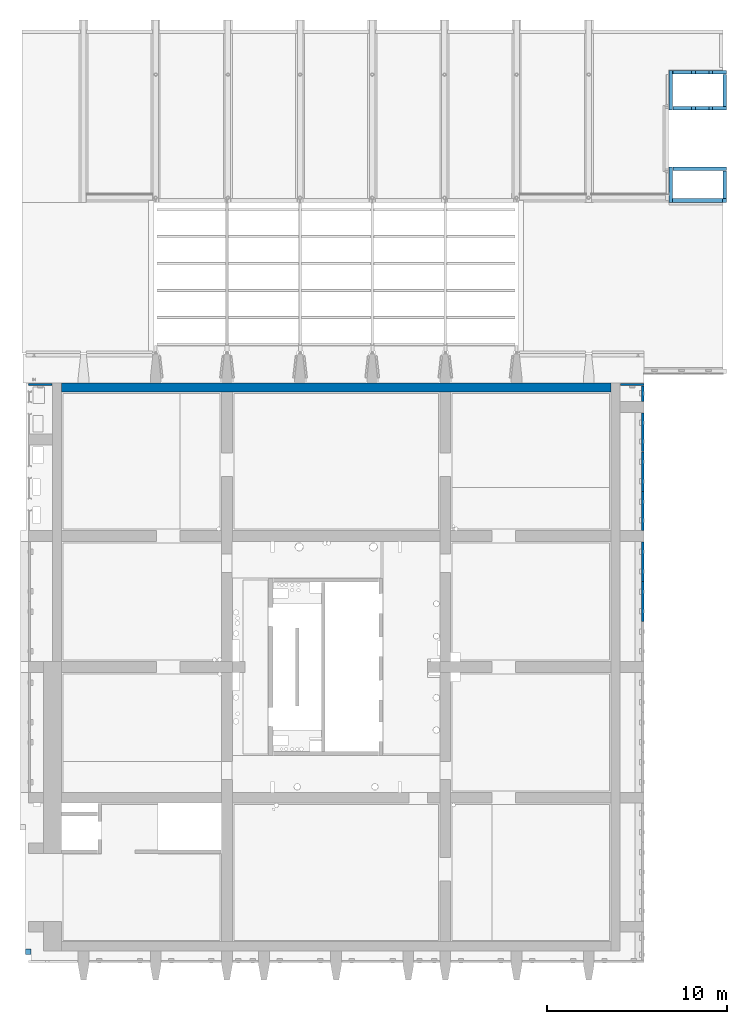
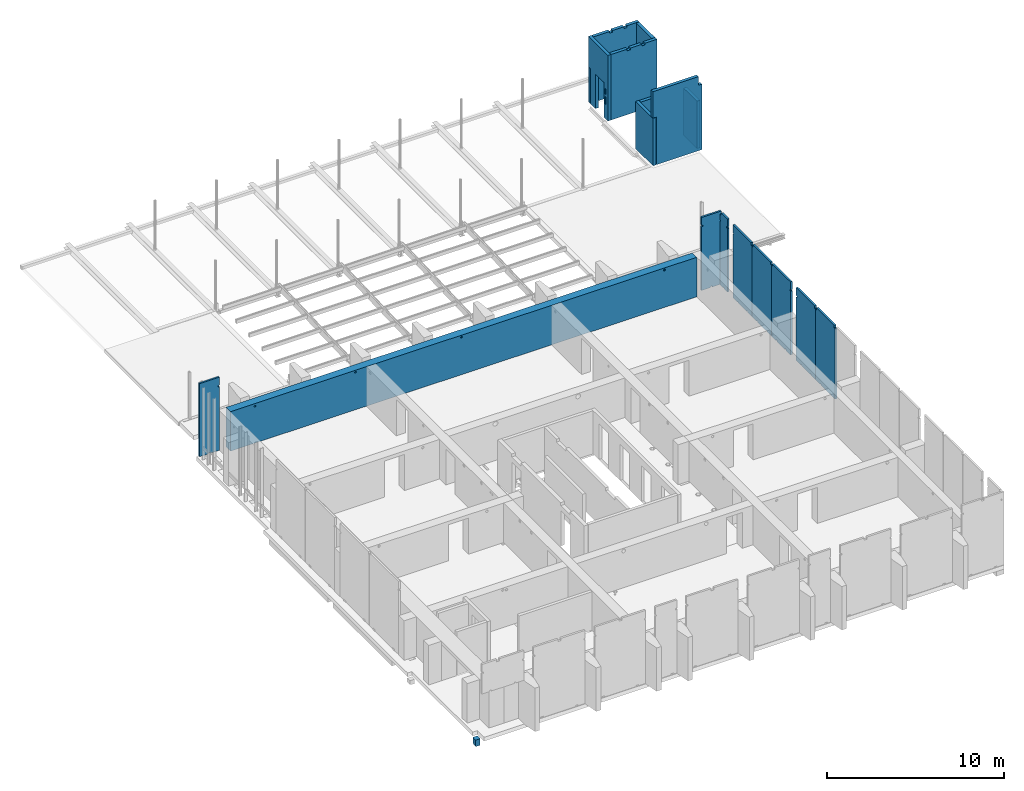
# One storey, part 29 of 31: 18 walls, 43 openings.
"""IFC2X3 building model written with IfcOpenShell, lengths in millimetres."""

from ifc_helpers import new_model, entity, si_unit, converted_unit, derived_unit, direction, frame, frame_2d, origin, origin_2d_with_axis, place, context, subcontext, project, spatial, rectangle, circle, extrude, faceted_brep, material, layer, layer_set, layer_usage, type_object, element, save


model = new_model("IFC2X3")

# Units and contexts
model_context = context("Model", 3, precision=0.01, world=origin(), true_north=direction((6.12303176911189e-17, 1.0)))
body_context = subcontext(model_context, "Body", "Model", "MODEL_VIEW")
ifc_project = project(units=[si_unit("LENGTHUNIT", "METRE", prefix="MILLI"), si_unit("AREAUNIT", "SQUARE_METRE"), si_unit("VOLUMEUNIT", "CUBIC_METRE"), converted_unit("PLANEANGLEUNIT", "DEGREE", entity("IfcRatioMeasure", 0.0174532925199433), si_unit("PLANEANGLEUNIT", "RADIAN"), dimensions=[0, 0, 0, 0, 0, 0, 0]), si_unit("MASSUNIT", "GRAM", prefix="KILO"), derived_unit("MASSDENSITYUNIT", [(si_unit("MASSUNIT", "GRAM", prefix="KILO"), 1), (si_unit("LENGTHUNIT", "METRE"), -3)]), si_unit("TIMEUNIT", "SECOND"), si_unit("FREQUENCYUNIT", "HERTZ"), si_unit("THERMODYNAMICTEMPERATUREUNIT", "DEGREE_CELSIUS"), derived_unit("THERMALTRANSMITTANCEUNIT", [(si_unit("MASSUNIT", "GRAM", prefix="KILO"), 1), (si_unit("THERMODYNAMICTEMPERATUREUNIT", "KELVIN"), -1), (si_unit("TIMEUNIT", "SECOND"), -3)]), derived_unit("VOLUMETRICFLOWRATEUNIT", [(si_unit("LENGTHUNIT", "METRE"), 3), (si_unit("TIMEUNIT", "SECOND"), -1)]), si_unit("ELECTRICCURRENTUNIT", "AMPERE"), si_unit("ELECTRICVOLTAGEUNIT", "VOLT"), si_unit("POWERUNIT", "WATT"), si_unit("FORCEUNIT", "NEWTON", prefix="KILO"), si_unit("ILLUMINANCEUNIT", "LUX"), si_unit("LUMINOUSFLUXUNIT", "LUMEN"), si_unit("LUMINOUSINTENSITYUNIT", "CANDELA"), derived_unit("USERDEFINED", [(si_unit("MASSUNIT", "GRAM", prefix="KILO"), -1), (si_unit("LENGTHUNIT", "METRE"), -2), (si_unit("TIMEUNIT", "SECOND"), 3), (si_unit("LUMINOUSFLUXUNIT", "LUMEN"), 1)]), derived_unit("LINEARVELOCITYUNIT", [(si_unit("LENGTHUNIT", "METRE"), 1), (si_unit("TIMEUNIT", "SECOND"), -1)]), si_unit("PRESSUREUNIT", "PASCAL"), derived_unit("USERDEFINED", [(si_unit("LENGTHUNIT", "METRE"), -2), (si_unit("MASSUNIT", "GRAM", prefix="KILO"), 1), (si_unit("TIMEUNIT", "SECOND"), -2)])], contexts=[model_context])

# Site, building, storey
site_placement = place(None, origin())
site = spatial("IfcSite", under=ifc_project, at=site_placement, Name="Default", CompositionType="ELEMENT")
building_placement = place(site_placement, origin())
building = spatial("IfcBuilding", under=site, at=building_placement, Name="niet gebruiken", CompositionType="ELEMENT")
storey_placement = place(building_placement, frame((0.0, 0.0, 12000.0)))
storey = spatial("IfcBuildingStorey", under=building, at=storey_placement, Name="03 derde verdieping", CompositionType="ELEMENT", Elevation=12000.0)

# Wall, openings
ifc_material_1 = material(Name="NLRS_f2_beton prefab")
ifc_layer_1 = layer(ifc_material_1, 200.0)
ifc_layer_set_1 = layer_set([ifc_layer_1], Name="Basic Wall:NLRS_21.21_WA_beton prefab d=200_gen")
ifc_layer_usage_1 = layer_usage(ifc_layer_set_1, "AXIS2", "NEGATIVE", 100.0)
wall_type_1 = type_object("IfcWallType", Name="Basic Wall:NLRS_21.21_WA_beton prefab d=200_gen", PredefinedType="STANDARD", material=ifc_layer_set_1)
wall_1_placement = place(storey_placement, frame((160290.0, 48350.0, 1450.0), z_axis=(0.0, 0.0, 1.0), x_axis=(0.0, 1.0, 0.0)))
wall_1 = element("IfcWallStandardCase", 1, at=wall_1_placement, inside=storey, type_object=wall_type_1, material=ifc_layer_usage_1, Name="Basic Wall:NLRS_21.21_WA_beton prefab d=200_gen", ObjectType="Basic Wall:NLRS_21.21_WA_beton prefab d=200_gen", context=body_context, shape_type="SweptSolid", body=[
    extrude(rectangle(XDim=2199.99999999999, YDim=200.000000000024, at=frame_2d((1099.99999999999, 0.0), x_axis=(-1.0, 0.0))), origin(), (0.0, 0.0, 1.0), 4530.0),
])
opening_1_placement = place(wall_1_placement, frame((418.0, 100.0, -20.0)))
element("IfcOpeningElement", 2, at=opening_1_placement, cuts=wall_1, Name="Basic Wall:NLRS_21.21_WA_beton prefab d=200_gen", ObjectType="Opening", context=body_context, shape_type="Brep", body=[
    faceted_brep([(992.0, -200.0, 2410.0), (12.0, -200.0, 2410.0), (12.0, -200.0, 0.0), (992.0, -200.0, 0.0), (1004.0, 0.0, 2422.0), (1004.0, 0.0, 0.0), (0.0, 0.0, 0.0), (0.0, 0.0, 2422.0)], [[[0, 1, 2, 3]], [[4, 5, 6, 7]], [[4, 7, 1, 0]], [[7, 6, 2, 1]], [[6, 5, 3, 2]], [[5, 4, 0, 3]]]),
])
opening_2_placement = place(wall_1_placement, origin())
element("IfcOpeningElement", 3, at=opening_2_placement, cuts=wall_1, Name="Basic Wall:NLRS_21.21_WA_beton prefab d=200_gen", ObjectType="Opening", context=body_context, shape_type="SweptSolid", body=[
    extrude(rectangle(XDim=2420.00000000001, YDim=220.000000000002, at=origin_2d_with_axis()), frame((2090.0, -100.0, 1210.0), z_axis=(0.0, 1.0, 0.0), x_axis=(0.0, 0.0, -1.0)), (0.0, 0.0, 1.0), 200.000000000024),
])
opening_3_placement = place(wall_1_placement, origin())
element("IfcOpeningElement", 4, at=opening_3_placement, cuts=wall_1, Name="Basic Wall:NLRS_21.21_WA_beton prefab d=200_gen", ObjectType="Opening", context=body_context, shape_type="SweptSolid", body=[
    extrude(rectangle(XDim=515.000000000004, YDim=100.000000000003, at=frame_2d((-8.66506866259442e-12, -1.08002495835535e-12), x_axis=(0.0, 1.0))), frame((250.0, -100.0, 1257.5), z_axis=(0.0, 1.0, 0.0), x_axis=(1.0, 0.0, 0.0)), (0.0, 0.0, 1.0), 200.000000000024),
])
opening_4_placement = place(wall_1_placement, origin())
element("IfcOpeningElement", 5, at=opening_4_placement, cuts=wall_1, Name="Basic Wall:NLRS_21.21_WA_beton prefab d=200_gen", ObjectType="Opening", context=body_context, shape_type="SweptSolid", body=[
    extrude(rectangle(XDim=370.000000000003, YDim=100.000000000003, at=frame_2d((-8.66506866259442e-12, 0.0), x_axis=(0.0, 1.0))), frame((250.0, -100.0, 1885.0), z_axis=(0.0, 1.0, 0.0), x_axis=(1.0, 0.0, 0.0)), (0.0, 0.0, 1.0), 200.000000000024),
])

# Wall
ifc_layer_usage_2 = layer_usage(ifc_layer_set_1, "AXIS2", "NEGATIVE", 100.0)
wall_2_placement = place(storey_placement, frame((163290.0, 43470.0, 1450.0), z_axis=(0.0, 0.0, 1.0), x_axis=(0.0, 1.0, 0.0)))
element("IfcWallStandardCase", 6, at=wall_2_placement, inside=storey, type_object=wall_type_1, material=ifc_layer_usage_2, Name="Basic Wall:NLRS_21.21_WA_beton prefab d=200_gen", ObjectType="Basic Wall:NLRS_21.21_WA_beton prefab d=200_gen", context=body_context, shape_type="SweptSolid", body=[
    extrude(rectangle(XDim=1510.0, YDim=200.000000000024, at=frame_2d((755.000000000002, 0.0), x_axis=(-1.0, 0.0))), origin(), (0.0, 0.0, 1.0), 3275.0),
])

# Wall, openings
ifc_layer_usage_3 = layer_usage(ifc_layer_set_1, "AXIS2", "NEGATIVE", 100.0)
wall_3_placement = place(storey_placement, frame((160410.0, 48450.0, 1450.0)))
wall_3 = element("IfcWallStandardCase", 7, at=wall_3_placement, inside=storey, type_object=wall_type_1, material=ifc_layer_usage_3, Name="Basic Wall:NLRS_21.21_WA_beton prefab d=200_gen", ObjectType="Basic Wall:NLRS_21.21_WA_beton prefab d=200_gen", context=body_context, shape_type="SweptSolid", body=[
    extrude(rectangle(XDim=2980.00000000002, YDim=200.000000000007, at=frame_2d((1490.00000000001, 9.2370555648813e-14), x_axis=(-1.0, 0.0))), origin(), (0.0, 0.0, 1.0), 4530.0),
])
opening_5_placement = place(wall_3_placement, origin())
element("IfcOpeningElement", 8, at=opening_5_placement, cuts=wall_3, Name="Basic Wall:NLRS_21.21_WA_beton prefab d=200_gen", ObjectType="Opening", context=body_context, shape_type="SweptSolid", body=[
    extrude(rectangle(XDim=140.000000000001, YDim=199.999999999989, at=frame_2d((1.08002495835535e-12, 1.73301373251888e-11), x_axis=(1.0, 0.0))), frame((1146.0, -100.0, 4480.0), z_axis=(0.0, 1.0, 0.0), x_axis=(0.0, 0.0, -1.0)), (0.0, 0.0, 1.0), 200.000000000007),
])
opening_6_placement = place(wall_3_placement, origin())
element("IfcOpeningElement", 9, at=opening_6_placement, cuts=wall_3, Name="Basic Wall:NLRS_21.21_WA_beton prefab d=200_gen", ObjectType="Opening", context=body_context, shape_type="SweptSolid", body=[
    extrude(rectangle(XDim=140.000000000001, YDim=199.999999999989, at=frame_2d((1.08002495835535e-12, -1.73301373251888e-11), x_axis=(1.0, 0.0))), frame((2096.0, -100.0, 4480.0), z_axis=(0.0, 1.0, 0.0), x_axis=(0.0, 0.0, -1.0)), (0.0, 0.0, 1.0), 200.000000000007),
])

ifc_layer_usage_4 = layer_usage(ifc_layer_set_1, "AXIS2", "NEGATIVE", 100.0)
wall_4_placement = place(storey_placement, frame((160190.0, 50450.0, 1450.0)))
wall_4 = element("IfcWallStandardCase", 10, at=wall_4_placement, inside=storey, type_object=wall_type_1, material=ifc_layer_usage_4, Name="Basic Wall:NLRS_21.21_WA_beton prefab d=200_gen", ObjectType="Basic Wall:NLRS_21.21_WA_beton prefab d=200_gen", context=body_context, shape_type="SweptSolid", body=[
    extrude(rectangle(XDim=3200.00000000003, YDim=200.000000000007, at=frame_2d((1600.00000000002, 4.2632564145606e-13), x_axis=(-1.0, 0.0))), origin(), (0.0, 0.0, 1.0), 4530.0),
])
opening_7_placement = place(wall_4_placement, origin())
element("IfcOpeningElement", 11, at=opening_7_placement, cuts=wall_4, Name="Basic Wall:NLRS_21.21_WA_beton prefab d=200_gen", ObjectType="Opening", context=body_context, shape_type="SweptSolid", body=[
    extrude(rectangle(XDim=140.000000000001, YDim=199.999999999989, at=frame_2d((1.08002495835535e-12, -1.73301373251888e-11), x_axis=(1.0, 0.0))), frame((2316.0, -100.0, 4480.0), z_axis=(0.0, 1.0, 0.0), x_axis=(0.0, 0.0, -1.0)), (0.0, 0.0, 1.0), 200.000000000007),
])
opening_8_placement = place(wall_4_placement, origin())
element("IfcOpeningElement", 12, at=opening_8_placement, cuts=wall_4, Name="Basic Wall:NLRS_21.21_WA_beton prefab d=200_gen", ObjectType="Opening", context=body_context, shape_type="SweptSolid", body=[
    extrude(rectangle(XDim=140.000000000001, YDim=199.999999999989, at=frame_2d((1.08002495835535e-12, 1.73301373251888e-11), x_axis=(1.0, 0.0))), frame((1366.0, -100.0, 4480.0), z_axis=(0.0, 1.0, 0.0), x_axis=(0.0, 0.0, -1.0)), (0.0, 0.0, 1.0), 200.000000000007),
])
opening_9_placement = place(wall_4_placement, origin())
element("IfcOpeningElement", 13, at=opening_9_placement, cuts=wall_4, Name="Basic Wall:NLRS_21.21_WA_beton prefab d=200_gen", ObjectType="Opening", context=body_context, shape_type="SweptSolid", body=[
    extrude(rectangle(XDim=2130.0, YDim=219.999999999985, at=frame_2d((0.0, 1.73301373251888e-11), x_axis=(1.0, 0.0))), frame((110.0, -100.0, 3465.0), z_axis=(0.0, 1.0, 0.0), x_axis=(0.0, 0.0, -1.0)), (0.0, 0.0, 1.0), 200.000000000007),
])

# Walls
ifc_layer_usage_5 = layer_usage(ifc_layer_set_1, "AXIS2", "NEGATIVE", 100.0)
wall_5_placement = place(storey_placement, frame((160410.0, 45100.0, 1450.0)))
element("IfcWallStandardCase", 14, at=wall_5_placement, inside=storey, type_object=wall_type_1, material=ifc_layer_usage_5, Name="Basic Wall:NLRS_21.21_WA_beton prefab d=200_gen", ObjectType="Basic Wall:NLRS_21.21_WA_beton prefab d=200_gen", context=body_context, shape_type="SweptSolid", body=[
    extrude(rectangle(XDim=2980.00000000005, YDim=200.000000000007, at=frame_2d((1490.00000000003, 9.2370555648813e-14), x_axis=(-1.0, 0.0))), origin(), (0.0, 0.0, 1.0), 3265.00000000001),
])
ifc_layer_usage_6 = layer_usage(ifc_layer_set_1, "AXIS2", "NEGATIVE", 100.0)
wall_6_placement = place(storey_placement, frame((163290.0, 48570.0, 1450.0), z_axis=(0.0, 0.0, 1.0), x_axis=(0.0, 1.0, 0.0)))
element("IfcWallStandardCase", 15, at=wall_6_placement, inside=storey, type_object=wall_type_1, material=ifc_layer_usage_6, Name="Basic Wall:NLRS_21.21_WA_beton prefab d=200_gen", ObjectType="Basic Wall:NLRS_21.21_WA_beton prefab d=200_gen", context=body_context, shape_type="SweptSolid", body=[
    extrude(rectangle(XDim=1760.0, YDim=200.000000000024, at=frame_2d((879.999999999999, 0.0), x_axis=(-1.0, 0.0))), origin(), (0.0, 0.0, 1.0), 4530.0),
])
ifc_layer_usage_7 = layer_usage(ifc_layer_set_1, "AXIS2", "NEGATIVE", 100.0)
wall_7_placement = place(storey_placement, frame((160290.0, 43250.0, 1450.0), z_axis=(0.0, 0.0, 1.0), x_axis=(0.0, 1.0, 0.0)))
element("IfcWallStandardCase", 16, at=wall_7_placement, inside=storey, type_object=wall_type_1, material=ifc_layer_usage_7, Name="Basic Wall:NLRS_21.21_WA_beton prefab d=200_gen", ObjectType="Basic Wall:NLRS_21.21_WA_beton prefab d=200_gen", context=body_context, shape_type="SweptSolid", body=[
    extrude(rectangle(XDim=1950.00000000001, YDim=200.000000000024, at=frame_2d((975.000000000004, 8.95283847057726e-13), x_axis=(-1.0, 0.0))), origin(), (0.0, 0.0, 1.0), 3275.0),
])

# Wall, openings
ifc_layer_usage_8 = layer_usage(ifc_layer_set_1, "AXIS2", "NEGATIVE", 100.0)
wall_8_placement = place(storey_placement, frame((160190.0, 43350.0, 1450.0)))
wall_8 = element("IfcWallStandardCase", 17, at=wall_8_placement, inside=storey, type_object=wall_type_1, material=ifc_layer_usage_8, Name="Basic Wall:NLRS_21.21_WA_beton prefab d=200_gen", ObjectType="Basic Wall:NLRS_21.21_WA_beton prefab d=200_gen", context=body_context, shape_type="SweptSolid", body=[
    extrude(rectangle(XDim=3200.00000000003, YDim=200.000000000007, at=frame_2d((1600.00000000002, 4.2632564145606e-13), x_axis=(-1.0, 0.0))), origin(), (0.0, 0.0, 1.0), 5125.0),
])
opening_10_placement = place(wall_8_placement, origin())
element("IfcOpeningElement", 18, at=opening_10_placement, cuts=wall_8, Name="Basic Wall:NLRS_21.21_WA_beton prefab d=200_gen", ObjectType="Opening", context=body_context, shape_type="SweptSolid", body=[
    extrude(rectangle(XDim=594.999999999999, YDim=220.000000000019, at=frame_2d((-1.73301373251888e-11, -2.1600499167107e-12), x_axis=(0.0, 1.0))), frame((3090.0, -100.0, 4827.5), z_axis=(0.0, 1.0, 0.0), x_axis=(1.0, 0.0, 0.0)), (0.0, 0.0, 1.0), 200.000000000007),
])
opening_11_placement = place(wall_8_placement, origin())
element("IfcOpeningElement", 19, at=opening_11_placement, cuts=wall_8, Name="Basic Wall:NLRS_21.21_WA_beton prefab d=200_gen", ObjectType="Opening", context=body_context, shape_type="SweptSolid", body=[
    extrude(rectangle(XDim=3295.0, YDim=220.000000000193, at=frame_2d((-1.02318153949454e-12, -5.19762011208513e-11), x_axis=(1.0, 0.0))), frame((110.0, 100.0, 1647.5), z_axis=(0.0, -1.0, 0.0), x_axis=(0.0, 0.0, -1.0)), (0.0, 0.0, 1.0), 200.0),
])

ifc_material_2 = material(Name="NLRS_f2_beton ihwg")
ifc_layer_2 = layer(ifc_material_2, 500.0)
ifc_layer_set_2 = layer_set([ifc_layer_2], Name="Basic Wall:NLRS_21.21_WA_beton ihwg d=500_gen")
ifc_layer_usage_9 = layer_usage(ifc_layer_set_2, "AXIS2", "NEGATIVE", 250.0)
wall_type_2 = type_object("IfcWallType", Name="Basic Wall:NLRS_21.21_WA_beton ihwg d=500_gen", PredefinedType="STANDARD", material=ifc_layer_set_2)
wall_9_placement = place(storey_placement, frame((126520.0, 32980.0, -90.0)))
wall_9 = element("IfcWallStandardCase", 20, at=wall_9_placement, inside=storey, type_object=wall_type_2, material=ifc_layer_usage_9, Name="Basic Wall:NLRS_21.21_WA_beton ihwg d=500_gen", ObjectType="Basic Wall:NLRS_21.21_WA_beton ihwg d=500_gen", context=body_context, shape_type="SweptSolid", body=[
    extrude(rectangle(XDim=30459.9999999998, YDim=499.999999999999, at=frame_2d((15229.9999999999, 1.30739863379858e-12), x_axis=(-1.0, 0.0))), origin(), (0.0, 0.0, 1.0), 2729.99999999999),
])
opening_12_placement = place(wall_9_placement, origin())
element("IfcOpeningElement", 21, at=opening_12_placement, cuts=wall_9, Name="Basic Wall:NLRS_21.21_WA_beton ihwg d=500_gen", ObjectType="Opening", context=body_context, shape_type="SweptSolid", body=[
    extrude(circle(Radius=62.5, at=origin_2d_with_axis()), frame((28350.0, -250.0, 2590.0), z_axis=(0.0, 1.0, 0.0), x_axis=(1.0, 0.0, 0.0)), (0.0, 0.0, 1.0), 600.000000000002),
])
opening_13_placement = place(wall_9_placement, origin())
element("IfcOpeningElement", 22, at=opening_13_placement, cuts=wall_9, Name="Basic Wall:NLRS_21.21_WA_beton ihwg d=500_gen", ObjectType="Opening", context=body_context, shape_type="SweptSolid", body=[
    extrude(circle(Radius=62.5, at=origin_2d_with_axis()), frame((15095.0, -250.0, 2590.0), z_axis=(0.0, 1.0, 0.0), x_axis=(1.0, 0.0, 0.0)), (0.0, 0.0, 1.0), 600.000000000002),
])
opening_14_placement = place(wall_9_placement, origin())
element("IfcOpeningElement", 23, at=opening_14_placement, cuts=wall_9, Name="Basic Wall:NLRS_21.21_WA_beton ihwg d=500_gen", ObjectType="Opening", context=body_context, shape_type="SweptSolid", body=[
    extrude(circle(Radius=62.5, at=origin_2d_with_axis()), frame((8170.0, -250.0, 2590.0), z_axis=(0.0, 1.0, 0.0), x_axis=(1.0, 0.0, 0.0)), (0.0, 0.0, 1.0), 600.000000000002),
])
opening_15_placement = place(wall_9_placement, origin())
element("IfcOpeningElement", 24, at=opening_15_placement, cuts=wall_9, Name="Basic Wall:NLRS_21.21_WA_beton ihwg d=500_gen", ObjectType="Opening", context=body_context, shape_type="SweptSolid", body=[
    extrude(circle(Radius=62.5, at=origin_2d_with_axis()), frame((1595.0, -250.0, 2545.0), z_axis=(0.0, 1.0, 0.0), x_axis=(1.0, 0.0, 0.0)), (0.0, 0.0, 1.0), 600.000000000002),
])

# Wall
wall_type_3 = type_object("IfcWallType", Name="NLRS_21.21_SF_WPB_oplegnok prefabbeton_gen:325x450 met afschuining 9", PredefinedType="NOTDEFINED", material=ifc_material_1)
wall_10_placement = place(storey_placement, frame((124530.0, 1550.0, -895.0), z_axis=(0.0, 0.0, 1.0), x_axis=(0.0, 1.0, 0.0)))
element("IfcWall", 25, at=wall_10_placement, inside=storey, type_object=wall_type_3, material=ifc_material_1, Name="NLRS_21.21_SF_WPB_oplegnok prefabbeton_gen:325x450 met afschuining 9", ObjectType="NLRS_21.21_SF_WPB_oplegnok prefabbeton_gen:325x450 met afschuining 9", context=body_context, shape_type="Brep", body=[
    faceted_brep([(0.0, 0.0, 450.0), (325.0, 0.0, 450.0), (325.0, 0.0, 51.4749431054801), (0.0, 0.0, 0.0), (0.0, -300.0, 450.0), (0.0, -300.0, 0.0), (325.0, -300.0, 51.4749431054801), (325.0, -300.0, 450.0)], [[[0, 1, 2, 3]], [[4, 5, 6, 7]], [[3, 5, 4, 0]], [[1, 7, 6, 2]], [[0, 4, 7, 1]], [[2, 6, 5, 3]]]),
])

# Wall, openings
ifc_layer_3 = layer(ifc_material_1, 120.0)
ifc_layer_set_3 = layer_set([ifc_layer_3], Name="Basic Wall:NLRS_21.21_WA_beton prefab d=120_gen")
ifc_layer_usage_10 = layer_usage(ifc_layer_set_3, "AXIS2", "POSITIVE", -60.0)
wall_type_4 = type_object("IfcWallType", Name="Basic Wall:NLRS_21.21_WA_beton prefab d=120_gen", PredefinedType="STANDARD", material=ifc_layer_set_3)
wall_11_placement = place(storey_placement, frame((158740.0, 20030.0, -60.0), z_axis=(0.0, 0.0, 1.0), x_axis=(0.0, 1.0, 0.0)))
wall_11 = element("IfcWallStandardCase", 26, at=wall_11_placement, inside=storey, type_object=wall_type_4, material=ifc_layer_usage_10, Name="Basic Wall:NLRS_21.21_WA_beton prefab d=120_gen", ObjectType="Basic Wall:NLRS_21.21_WA_beton prefab d=120_gen", context=body_context, shape_type="SweptSolid", body=[
    extrude(rectangle(XDim=2190.0, YDim=119.999999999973, at=frame_2d((1095.0, 0.0), x_axis=(-1.0, 0.0))), origin(), (0.0, 0.0, 1.0), 5045.00000000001),
])
opening_16_placement = place(wall_11_placement, origin())
element("IfcOpeningElement", 27, at=opening_16_placement, cuts=wall_11, Name="Basic Wall:NLRS_21.21_WA_beton prefab d=120_gen", ObjectType="Opening", context=body_context, shape_type="SweptSolid", body=[
    extrude(rectangle(XDim=79.9999999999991, YDim=100.000000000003, at=origin_2d_with_axis()), frame((1640.0, -75.0, 40.0), z_axis=(0.0, 1.0, 0.0), x_axis=(0.0, 0.0, -1.0)), (0.0, 0.0, 1.0), 150.000000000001),
])
opening_17_placement = place(wall_11_placement, origin())
element("IfcOpeningElement", 28, at=opening_17_placement, cuts=wall_11, Name="Basic Wall:NLRS_21.21_WA_beton prefab d=120_gen", ObjectType="Opening", context=body_context, shape_type="SweptSolid", body=[
    extrude(rectangle(XDim=79.9999999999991, YDim=100.000000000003, at=frame_2d((0.0, 0.0), x_axis=(0.0, 1.0))), frame((550.0, -75.0, 40.0), z_axis=(0.0, 1.0, 0.0), x_axis=(1.0, 0.0, 0.0)), (0.0, 0.0, 1.0), 150.000000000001),
])
opening_18_placement = place(wall_11_placement, origin())
element("IfcOpeningElement", 29, at=opening_18_placement, cuts=wall_11, Name="Basic Wall:NLRS_21.21_WA_beton prefab d=120_gen", ObjectType="Opening", context=body_context, shape_type="SweptSolid", body=[
    extrude(rectangle(XDim=163.0, YDim=90.0000000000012, at=frame_2d((2.16715534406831e-12, -1.08713038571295e-12), x_axis=(0.0, 1.0))), frame((2145.0, -75.0, 4963.4998855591), z_axis=(0.0, 1.0, 0.0), x_axis=(1.0, 0.0, 0.0)), (0.0, 0.0, 1.0), 150.000000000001),
])
opening_19_placement = place(wall_11_placement, origin())
element("IfcOpeningElement", 30, at=opening_19_placement, cuts=wall_11, Name="Basic Wall:NLRS_21.21_WA_beton prefab d=120_gen", ObjectType="Opening", context=body_context, shape_type="SweptSolid", body=[
    extrude(rectangle(XDim=163.0, YDim=90.0000000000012, at=frame_2d((1.08713038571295e-12, -2.16715534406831e-12), x_axis=(1.0, 0.0))), frame((45.0, -75.0, 4963.4998855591), z_axis=(0.0, 1.0, 0.0), x_axis=(0.0, 0.0, -1.0)), (0.0, 0.0, 1.0), 150.000000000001),
])

ifc_layer_usage_11 = layer_usage(ifc_layer_set_3, "AXIS2", "NEGATIVE", 60.0)
wall_12_placement = place(storey_placement, frame((158740.0, 24430.0, -60.0), z_axis=(0.0, 0.0, 1.0), x_axis=(0.0, -1.0, 0.0)))
wall_12 = element("IfcWallStandardCase", 31, at=wall_12_placement, inside=storey, type_object=wall_type_4, material=ifc_layer_usage_11, Name="Basic Wall:NLRS_21.21_WA_beton prefab d=120_gen", ObjectType="Basic Wall:NLRS_21.21_WA_beton prefab d=120_gen", context=body_context, shape_type="SweptSolid", body=[
    extrude(rectangle(XDim=2190.0, YDim=119.999999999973, at=frame_2d((1095.0, 0.0), x_axis=(-1.0, 0.0))), origin(), (0.0, 0.0, 1.0), 5045.00000000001),
])
opening_20_placement = place(wall_12_placement, origin())
element("IfcOpeningElement", 32, at=opening_20_placement, cuts=wall_12, Name="Basic Wall:NLRS_21.21_WA_beton prefab d=120_gen", ObjectType="Opening", context=body_context, shape_type="SweptSolid", body=[
    extrude(rectangle(XDim=79.9999999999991, YDim=100.000000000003, at=frame_2d((0.0, 0.0), x_axis=(0.0, 1.0))), frame((1640.0, -75.0, 40.0), z_axis=(0.0, 1.0, 0.0), x_axis=(1.0, 0.0, 0.0)), (0.0, 0.0, 1.0), 150.000000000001),
])
opening_21_placement = place(wall_12_placement, origin())
element("IfcOpeningElement", 33, at=opening_21_placement, cuts=wall_12, Name="Basic Wall:NLRS_21.21_WA_beton prefab d=120_gen", ObjectType="Opening", context=body_context, shape_type="SweptSolid", body=[
    extrude(rectangle(XDim=79.9999999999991, YDim=100.000000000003, at=origin_2d_with_axis()), frame((550.0, -75.0, 40.0), z_axis=(0.0, 1.0, 0.0), x_axis=(0.0, 0.0, -1.0)), (0.0, 0.0, 1.0), 150.000000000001),
])
opening_22_placement = place(wall_12_placement, origin())
element("IfcOpeningElement", 34, at=opening_22_placement, cuts=wall_12, Name="Basic Wall:NLRS_21.21_WA_beton prefab d=120_gen", ObjectType="Opening", context=body_context, shape_type="SweptSolid", body=[
    extrude(rectangle(XDim=99.9999999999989, YDim=79.9999999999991, at=frame_2d((0.0, 1.08357767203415e-12), x_axis=(0.0, 1.0))), frame((40.0, -75.0, 4445.0), z_axis=(0.0, 1.0, 0.0), x_axis=(1.0, 0.0, 0.0)), (0.0, 0.0, 1.0), 150.000000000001),
])
opening_23_placement = place(wall_12_placement, origin())
element("IfcOpeningElement", 35, at=opening_23_placement, cuts=wall_12, Name="Basic Wall:NLRS_21.21_WA_beton prefab d=120_gen", ObjectType="Opening", context=body_context, shape_type="SweptSolid", body=[
    extrude(rectangle(XDim=163.0, YDim=90.0000000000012, at=frame_2d((1.08713038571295e-12, 2.16715534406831e-12), x_axis=(1.0, 0.0))), frame((2145.0, -75.0, 4963.4998855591), z_axis=(0.0, 1.0, 0.0), x_axis=(0.0, 0.0, -1.0)), (0.0, 0.0, 1.0), 150.000000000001),
])

ifc_layer_usage_12 = layer_usage(ifc_layer_set_3, "AXIS2", "POSITIVE", -60.0)
wall_13_placement = place(storey_placement, frame((158740.0, 25070.0, -60.0), z_axis=(0.0, 0.0, 1.0), x_axis=(0.0, 1.0, 0.0)))
wall_13 = element("IfcWallStandardCase", 36, at=wall_13_placement, inside=storey, type_object=wall_type_4, material=ifc_layer_usage_12, Name="Basic Wall:NLRS_21.21_WA_beton prefab d=120_gen", ObjectType="Basic Wall:NLRS_21.21_WA_beton prefab d=120_gen", context=body_context, shape_type="SweptSolid", body=[
    extrude(rectangle(XDim=2140.0, YDim=119.999999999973, at=frame_2d((1070.0, 0.0), x_axis=(-1.0, 0.0))), origin(), (0.0, 0.0, 1.0), 5045.00000000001),
])
opening_24_placement = place(wall_13_placement, origin())
element("IfcOpeningElement", 37, at=opening_24_placement, cuts=wall_13, Name="Basic Wall:NLRS_21.21_WA_beton prefab d=120_gen", ObjectType="Opening", context=body_context, shape_type="SweptSolid", body=[
    extrude(rectangle(XDim=79.9999999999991, YDim=100.000000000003, at=origin_2d_with_axis()), frame((1590.0, -75.0, 40.0), z_axis=(0.0, 1.0, 0.0), x_axis=(0.0, 0.0, -1.0)), (0.0, 0.0, 1.0), 150.000000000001),
])
opening_25_placement = place(wall_13_placement, origin())
element("IfcOpeningElement", 38, at=opening_25_placement, cuts=wall_13, Name="Basic Wall:NLRS_21.21_WA_beton prefab d=120_gen", ObjectType="Opening", context=body_context, shape_type="SweptSolid", body=[
    extrude(rectangle(XDim=79.9999999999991, YDim=100.000000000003, at=frame_2d((0.0, 0.0), x_axis=(0.0, 1.0))), frame((550.0, -75.0, 40.0), z_axis=(0.0, 1.0, 0.0), x_axis=(1.0, 0.0, 0.0)), (0.0, 0.0, 1.0), 150.000000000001),
])
opening_26_placement = place(wall_13_placement, origin())
element("IfcOpeningElement", 39, at=opening_26_placement, cuts=wall_13, Name="Basic Wall:NLRS_21.21_WA_beton prefab d=120_gen", ObjectType="Opening", context=body_context, shape_type="SweptSolid", body=[
    extrude(rectangle(XDim=100.000000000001, YDim=80.0000000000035, at=frame_2d((-2.16715534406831e-12, -2.16715534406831e-12), x_axis=(1.0, 0.0))), frame((40.0, -75.0, 4445.0), z_axis=(0.0, 1.0, 0.0), x_axis=(0.0, 0.0, -1.0)), (0.0, 0.0, 1.0), 150.000000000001),
])
opening_27_placement = place(wall_13_placement, origin())
element("IfcOpeningElement", 40, at=opening_27_placement, cuts=wall_13, Name="Basic Wall:NLRS_21.21_WA_beton prefab d=120_gen", ObjectType="Opening", context=body_context, shape_type="SweptSolid", body=[
    extrude(rectangle(XDim=163.0, YDim=90.0000000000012, at=frame_2d((2.16715534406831e-12, -1.08713038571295e-12), x_axis=(0.0, 1.0))), frame((2095.0, -75.0, 4963.4998855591), z_axis=(0.0, 1.0, 0.0), x_axis=(1.0, 0.0, 0.0)), (0.0, 0.0, 1.0), 150.000000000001),
])

ifc_layer_usage_13 = layer_usage(ifc_layer_set_3, "AXIS2", "NEGATIVE", 60.0)
wall_14_placement = place(storey_placement, frame((158740.0, 31580.0, -60.0), z_axis=(0.0, 0.0, 1.0), x_axis=(0.0, -1.0, 0.0)))
wall_14 = element("IfcWallStandardCase", 41, at=wall_14_placement, inside=storey, type_object=wall_type_4, material=ifc_layer_usage_13, Name="Basic Wall:NLRS_21.21_WA_beton prefab d=120_gen", ObjectType="Basic Wall:NLRS_21.21_WA_beton prefab d=120_gen", context=body_context, shape_type="SweptSolid", body=[
    extrude(rectangle(XDim=2140.0, YDim=119.999999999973, at=frame_2d((1070.0, 0.0), x_axis=(-1.0, 0.0))), origin(), (0.0, 0.0, 1.0), 5045.00000000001),
])
opening_28_placement = place(wall_14_placement, origin())
element("IfcOpeningElement", 42, at=opening_28_placement, cuts=wall_14, Name="Basic Wall:NLRS_21.21_WA_beton prefab d=120_gen", ObjectType="Opening", context=body_context, shape_type="SweptSolid", body=[
    extrude(rectangle(XDim=79.9999999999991, YDim=100.000000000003, at=frame_2d((0.0, 0.0), x_axis=(0.0, 1.0))), frame((1590.0, -75.0, 40.0), z_axis=(0.0, 1.0, 0.0), x_axis=(1.0, 0.0, 0.0)), (0.0, 0.0, 1.0), 150.000000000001),
])
opening_29_placement = place(wall_14_placement, origin())
element("IfcOpeningElement", 43, at=opening_29_placement, cuts=wall_14, Name="Basic Wall:NLRS_21.21_WA_beton prefab d=120_gen", ObjectType="Opening", context=body_context, shape_type="SweptSolid", body=[
    extrude(rectangle(XDim=79.9999999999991, YDim=100.000000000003, at=origin_2d_with_axis()), frame((550.0, -75.0, 40.0), z_axis=(0.0, 1.0, 0.0), x_axis=(0.0, 0.0, -1.0)), (0.0, 0.0, 1.0), 150.000000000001),
])
opening_30_placement = place(wall_14_placement, origin())
element("IfcOpeningElement", 44, at=opening_30_placement, cuts=wall_14, Name="Basic Wall:NLRS_21.21_WA_beton prefab d=120_gen", ObjectType="Opening", context=body_context, shape_type="SweptSolid", body=[
    extrude(rectangle(XDim=99.9999999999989, YDim=79.9999999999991, at=frame_2d((0.0, 1.08357767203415e-12), x_axis=(0.0, 1.0))), frame((40.0, -75.0, 4445.0), z_axis=(0.0, 1.0, 0.0), x_axis=(1.0, 0.0, 0.0)), (0.0, 0.0, 1.0), 150.000000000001),
])
opening_31_placement = place(wall_14_placement, origin())
element("IfcOpeningElement", 45, at=opening_31_placement, cuts=wall_14, Name="Basic Wall:NLRS_21.21_WA_beton prefab d=120_gen", ObjectType="Opening", context=body_context, shape_type="SweptSolid", body=[
    extrude(rectangle(XDim=163.0, YDim=90.0000000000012, at=frame_2d((1.08713038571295e-12, -2.16715534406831e-12), x_axis=(1.0, 0.0))), frame((2095.0, -75.0, 4963.4998855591), z_axis=(0.0, 1.0, 0.0), x_axis=(0.0, 0.0, -1.0)), (0.0, 0.0, 1.0), 150.000000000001),
])

ifc_layer_usage_14 = layer_usage(ifc_layer_set_3, "AXIS2", "POSITIVE", -60.0)
wall_15_placement = place(storey_placement, frame((158740.0, 27230.0, -60.0), z_axis=(0.0, 0.0, 1.0), x_axis=(0.0, 1.0, 0.0)))
wall_15 = element("IfcWallStandardCase", 46, at=wall_15_placement, inside=storey, type_object=wall_type_4, material=ifc_layer_usage_14, Name="Basic Wall:NLRS_21.21_WA_beton prefab d=120_gen", ObjectType="Basic Wall:NLRS_21.21_WA_beton prefab d=120_gen", context=body_context, shape_type="SweptSolid", body=[
    extrude(rectangle(XDim=2190.0, YDim=119.999999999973, at=frame_2d((1095.0, 0.0), x_axis=(-1.0, 0.0))), origin(), (0.0, 0.0, 1.0), 5045.00000000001),
])
opening_32_placement = place(wall_15_placement, origin())
element("IfcOpeningElement", 47, at=opening_32_placement, cuts=wall_15, Name="Basic Wall:NLRS_21.21_WA_beton prefab d=120_gen", ObjectType="Opening", context=body_context, shape_type="SweptSolid", body=[
    extrude(rectangle(XDim=79.9999999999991, YDim=100.000000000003, at=origin_2d_with_axis()), frame((1640.0, -75.0, 40.0), z_axis=(0.0, 1.0, 0.0), x_axis=(0.0, 0.0, -1.0)), (0.0, 0.0, 1.0), 150.000000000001),
])
opening_33_placement = place(wall_15_placement, origin())
element("IfcOpeningElement", 48, at=opening_33_placement, cuts=wall_15, Name="Basic Wall:NLRS_21.21_WA_beton prefab d=120_gen", ObjectType="Opening", context=body_context, shape_type="SweptSolid", body=[
    extrude(rectangle(XDim=79.9999999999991, YDim=100.000000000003, at=frame_2d((0.0, 0.0), x_axis=(0.0, 1.0))), frame((550.0, -75.0, 40.0), z_axis=(0.0, 1.0, 0.0), x_axis=(1.0, 0.0, 0.0)), (0.0, 0.0, 1.0), 150.000000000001),
])
opening_34_placement = place(wall_15_placement, origin())
element("IfcOpeningElement", 49, at=opening_34_placement, cuts=wall_15, Name="Basic Wall:NLRS_21.21_WA_beton prefab d=120_gen", ObjectType="Opening", context=body_context, shape_type="SweptSolid", body=[
    extrude(rectangle(XDim=163.0, YDim=90.0000000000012, at=frame_2d((2.16715534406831e-12, -1.08713038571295e-12), x_axis=(0.0, 1.0))), frame((2145.0, -75.0, 4963.4998855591), z_axis=(0.0, 1.0, 0.0), x_axis=(1.0, 0.0, 0.0)), (0.0, 0.0, 1.0), 150.000000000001),
])
opening_35_placement = place(wall_15_placement, origin())
element("IfcOpeningElement", 50, at=opening_35_placement, cuts=wall_15, Name="Basic Wall:NLRS_21.21_WA_beton prefab d=120_gen", ObjectType="Opening", context=body_context, shape_type="SweptSolid", body=[
    extrude(rectangle(XDim=163.0, YDim=90.0000000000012, at=frame_2d((-1.08713038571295e-12, 2.16715534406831e-12), x_axis=(1.0, 0.0))), frame((45.0, -75.0, 4963.4998855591), z_axis=(0.0, 1.0, 0.0), x_axis=(0.0, 0.0, -1.0)), (0.0, 0.0, 1.0), 150.000000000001),
])

ifc_layer_usage_15 = layer_usage(ifc_layer_set_3, "AXIS2", "POSITIVE", -60.0)
wall_16_placement = place(storey_placement, frame((158740.0, 32220.0, -60.0), z_axis=(0.0, 0.0, 1.0), x_axis=(0.0, 1.0, 0.0)))
wall_16 = element("IfcWallStandardCase", 51, at=wall_16_placement, inside=storey, type_object=wall_type_4, material=ifc_layer_usage_15, Name="Basic Wall:NLRS_21.21_WA_beton prefab d=120_gen", ObjectType="Basic Wall:NLRS_21.21_WA_beton prefab d=120_gen", context=body_context, shape_type="SweptSolid", body=[
    extrude(rectangle(XDim=850.000000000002, YDim=119.999999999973, at=frame_2d((425.000000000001, 0.0), x_axis=(-1.0, 0.0))), origin(), (0.0, 0.0, 1.0), 5045.00000000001),
])
opening_36_placement = place(wall_16_placement, origin())
element("IfcOpeningElement", 52, at=opening_36_placement, cuts=wall_16, Name="Basic Wall:NLRS_21.21_WA_beton prefab d=120_gen", ObjectType="Opening", context=body_context, shape_type="SweptSolid", body=[
    extrude(rectangle(XDim=79.9999999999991, YDim=100.000000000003, at=frame_2d((0.0, 0.0), x_axis=(0.0, 1.0))), frame((435.0, -75.0, 40.0), z_axis=(0.0, 1.0, 0.0), x_axis=(1.0, 0.0, 0.0)), (0.0, 0.0, 1.0), 150.000000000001),
])
opening_37_placement = place(wall_16_placement, origin())
element("IfcOpeningElement", 53, at=opening_37_placement, cuts=wall_16, Name="Basic Wall:NLRS_21.21_WA_beton prefab d=120_gen", ObjectType="Opening", context=body_context, shape_type="SweptSolid", body=[
    extrude(rectangle(XDim=100.000000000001, YDim=80.0000000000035, at=frame_2d((-2.16715534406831e-12, -2.16715534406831e-12), x_axis=(1.0, 0.0))), frame((40.0, -75.0, 4445.0), z_axis=(0.0, 1.0, 0.0), x_axis=(0.0, 0.0, -1.0)), (0.0, 0.0, 1.0), 150.000000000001),
])
opening_38_placement = place(wall_16_placement, origin())
element("IfcOpeningElement", 54, at=opening_38_placement, cuts=wall_16, Name="Basic Wall:NLRS_21.21_WA_beton prefab d=120_gen", ObjectType="Opening", context=body_context, shape_type="SweptSolid", body=[
    extrude(rectangle(XDim=99.9999999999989, YDim=79.9999999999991, at=frame_2d((0.0, 1.08357767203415e-12), x_axis=(0.0, 1.0))), frame((810.0, -75.0, 4445.0), z_axis=(0.0, 1.0, 0.0), x_axis=(1.0, 0.0, 0.0)), (0.0, 0.0, 1.0), 150.000000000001),
])
opening_39_placement = place(wall_16_placement, origin())
element("IfcOpeningElement", 55, at=opening_39_placement, cuts=wall_16, Name="Basic Wall:NLRS_21.21_WA_beton prefab d=120_gen", ObjectType="Opening", context=body_context, shape_type="SweptSolid", body=[
    extrude(rectangle(XDim=160.0, YDim=159.999999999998, at=frame_2d((0.0, -1.08713038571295e-12), x_axis=(0.0, 1.0))), frame((770.0, -60.0, 4965.0), z_axis=(0.0, 1.0, 0.0), x_axis=(1.0, 0.0, 0.0)), (0.0, 0.0, 1.0), 119.999999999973),
])

ifc_layer_usage_16 = layer_usage(ifc_layer_set_3, "AXIS2", "POSITIVE", -60.0)
wall_17_placement = place(storey_placement, frame((158800.0, 33150.0, -60.0), z_axis=(0.0, 0.0, 1.0), x_axis=(-1.0, 0.0, 0.0)))
wall_17 = element("IfcWallStandardCase", 56, at=wall_17_placement, inside=storey, type_object=wall_type_4, material=ifc_layer_usage_16, Name="Basic Wall:NLRS_21.21_WA_beton prefab d=120_gen", ObjectType="Basic Wall:NLRS_21.21_WA_beton prefab d=120_gen", context=body_context, shape_type="SweptSolid", body=[
    extrude(rectangle(XDim=1300.00000000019, YDim=119.999999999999, at=frame_2d((650.000000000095, 0.0), x_axis=(-1.0, 0.0))), origin(), (0.0, 0.0, 1.0), 5045.00000000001),
])
opening_40_placement = place(wall_17_placement, origin())
element("IfcOpeningElement", 57, at=opening_40_placement, cuts=wall_17, Name="Basic Wall:NLRS_21.21_WA_beton prefab d=120_gen", ObjectType="Opening", context=body_context, shape_type="SweptSolid", body=[
    extrude(rectangle(XDim=79.9999999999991, YDim=99.9999999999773, at=frame_2d((0.0, 0.0), x_axis=(0.0, 1.0))), frame((650.0, -75.0, 40.0), z_axis=(0.0, 1.0, 0.0), x_axis=(1.0, 0.0, 0.0)), (0.0, 0.0, 1.0), 150.000000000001),
])
opening_41_placement = place(wall_17_placement, origin())
element("IfcOpeningElement", 58, at=opening_41_placement, cuts=wall_17, Name="Basic Wall:NLRS_21.21_WA_beton prefab d=120_gen", ObjectType="Opening", context=body_context, shape_type="SweptSolid", body=[
    extrude(rectangle(XDim=100.000000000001, YDim=79.9999999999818, at=frame_2d((0.0, 1.08357767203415e-12), x_axis=(0.0, 1.0))), frame((1260.0, -75.0, 4445.0), z_axis=(0.0, 1.0, 0.0), x_axis=(1.0, 0.0, 0.0)), (0.0, 0.0, 1.0), 150.000000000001),
])

ifc_layer_usage_17 = layer_usage(ifc_layer_set_3, "AXIS2", "NEGATIVE", 60.0)
wall_18_placement = place(storey_placement, frame((124700.0, 33150.0, -60.0)))
wall_18 = element("IfcWallStandardCase", 59, at=wall_18_placement, inside=storey, type_object=wall_type_4, material=ifc_layer_usage_17, Name="Basic Wall:NLRS_21.21_WA_beton prefab d=120_gen", ObjectType="Basic Wall:NLRS_21.21_WA_beton prefab d=120_gen", context=body_context, shape_type="SweptSolid", body=[
    extrude(rectangle(XDim=1300.00000000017, YDim=119.999999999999, at=frame_2d((650.000000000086, 0.0), x_axis=(-1.0, 0.0))), origin(), (0.0, 0.0, 1.0), 5045.00000000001),
])
opening_42_placement = place(wall_18_placement, origin())
element("IfcOpeningElement", 60, at=opening_42_placement, cuts=wall_18, Name="Basic Wall:NLRS_21.21_WA_beton prefab d=120_gen", ObjectType="Opening", context=body_context, shape_type="SweptSolid", body=[
    extrude(rectangle(XDim=79.9999999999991, YDim=99.9999999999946, at=origin_2d_with_axis()), frame((650.0, -75.0, 40.0), z_axis=(0.0, 1.0, 0.0), x_axis=(0.0, 0.0, -1.0)), (0.0, 0.0, 1.0), 150.000000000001),
])
opening_43_placement = place(wall_18_placement, origin())
element("IfcOpeningElement", 61, at=opening_43_placement, cuts=wall_18, Name="Basic Wall:NLRS_21.21_WA_beton prefab d=120_gen", ObjectType="Opening", context=body_context, shape_type="SweptSolid", body=[
    extrude(rectangle(XDim=100.000000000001, YDim=79.9999999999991, at=frame_2d((1.08357767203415e-12, 0.0), x_axis=(1.0, 0.0))), frame((1260.0, -75.0, 4445.0), z_axis=(0.0, 1.0, 0.0), x_axis=(0.0, 0.0, -1.0)), (0.0, 0.0, 1.0), 150.000000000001),
])

save(model, "model.ifc")
